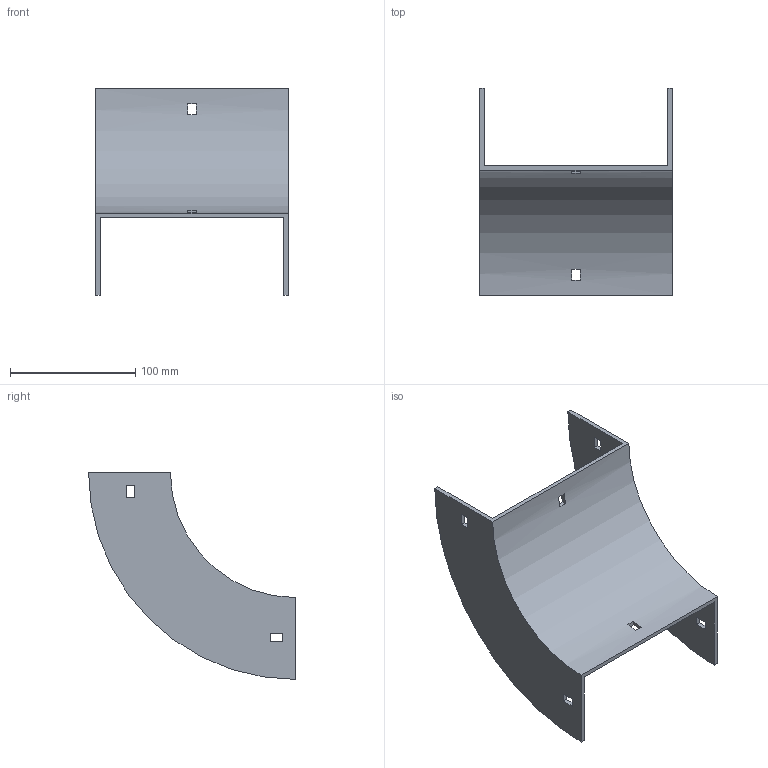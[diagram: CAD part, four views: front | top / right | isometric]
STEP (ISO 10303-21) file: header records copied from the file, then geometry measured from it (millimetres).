
FILE_DESCRIPTION (( 'STEP AP214' ), '1' );
FILE_NAME ('33B1H150.step', '2025-02-21T09:32:01', ( '' ), ( '' ), 'SwSTEP 2.0', 'SolidWorks 2023', '' );
FILE_SCHEMA (( 'AUTOMOTIVE_DESIGN' ));
Length unit declared in the file: millimetre
Products named in the file (1): 33B1H150
Bounding box: 154 x 165.5 x 165.5 mm (x, y, z)
Volume: 176444.5 mm3; surface area: 105268 mm2
Topology: 1 solids, 1 shells, 34 faces, 96 edges, 64 vertices
Faces by surface type: plane 30, cylinder 4
Entity records: 1143 total; most frequent: CARTESIAN_POINT 195, ORIENTED_EDGE 192, DIRECTION 182, EDGE_CURVE 96, LINE 80, VECTOR 80, VERTEX_POINT 64, AXIS2_PLACEMENT_3D 51
